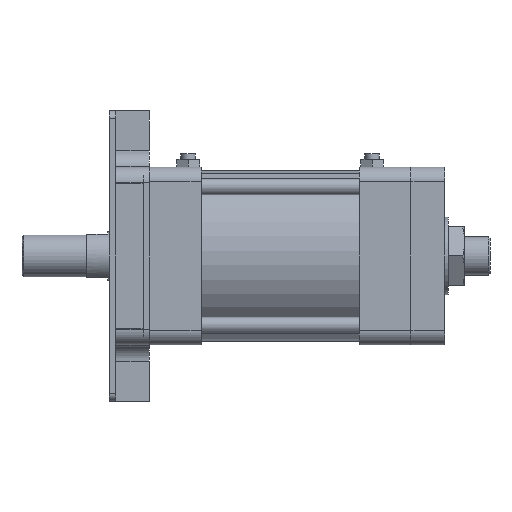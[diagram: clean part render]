
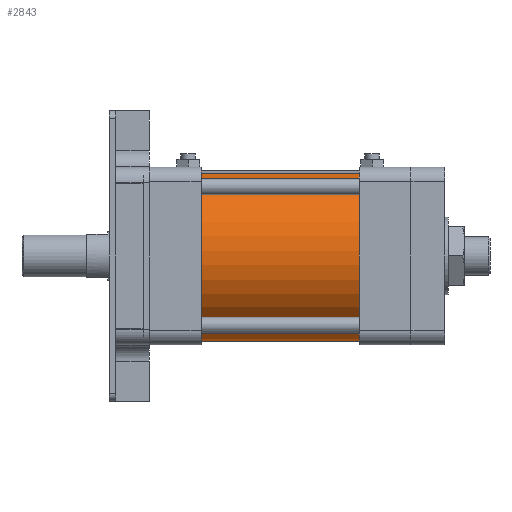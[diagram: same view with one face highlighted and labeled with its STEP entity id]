
A CAD part, front view. The second image highlights one B-rep face of the part: STEP entity #2843.
In plain terms, the highlighted cylindrical face has radius 53 mm (diameter 106 mm), a partial arc.
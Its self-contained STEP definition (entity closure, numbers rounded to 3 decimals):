
#381 = DIRECTION ( 'NONE',  ( 0., 0., -1. ) ) ;
#688 = CARTESIAN_POINT ( 'NONE',  ( -49., 0., 53. ) ) ;
#1196 = AXIS2_PLACEMENT_3D ( 'NONE', #10433, #7492, #2867 ) ;
#1697 = DIRECTION ( 'NONE',  ( 0., 0., -1. ) ) ;
#1712 = VERTEX_POINT ( 'NONE', #9223 ) ;
#2075 = DIRECTION ( 'NONE',  ( 1., 0., 0. ) ) ;
#2151 = CARTESIAN_POINT ( 'NONE',  ( 62.388, 0., 53. ) ) ;
#2378 = CARTESIAN_POINT ( 'NONE',  ( 62.388, 0., 0. ) ) ;
#2770 = AXIS2_PLACEMENT_3D ( 'NONE', #2378, #8308, #381 ) ;
#2843 = ADVANCED_FACE ( 'NONE', ( #3990 ), #7216, .T. ) ;
#2867 = DIRECTION ( 'NONE',  ( 0., 0., -1. ) ) ;
#3220 = CIRCLE ( 'NONE', #1196, 53. ) ;
#3297 = ORIENTED_EDGE ( 'NONE', *, *, #3688, .T. ) ;
#3617 = LINE ( 'NONE', #2151, #5600 ) ;
#3659 = CARTESIAN_POINT ( 'NONE',  ( 49., 0., 53. ) ) ;
#3688 = EDGE_CURVE ( 'NONE', #9796, #1712, #3220, .T. ) ;
#3990 = FACE_OUTER_BOUND ( 'NONE', #9768, .T. ) ;
#4071 = VERTEX_POINT ( 'NONE', #8816 ) ;
#4367 = VERTEX_POINT ( 'NONE', #3659 ) ;
#4536 = ORIENTED_EDGE ( 'NONE', *, *, #7487, .F. ) ;
#5600 = VECTOR ( 'NONE', #6663, 1000. ) ;
#5773 = DIRECTION ( 'NONE',  ( 1., 0., 0. ) ) ;
#5841 = EDGE_CURVE ( 'NONE', #1712, #4071, #9756, .T. ) ;
#6663 = DIRECTION ( 'NONE',  ( 1., 0., 0. ) ) ;
#6930 = AXIS2_PLACEMENT_3D ( 'NONE', #7619, #2075, #1697 ) ;
#7148 = EDGE_CURVE ( 'NONE', #9796, #4367, #3617, .T. ) ;
#7216 = CYLINDRICAL_SURFACE ( 'NONE', #2770, 53. ) ;
#7487 = EDGE_CURVE ( 'NONE', #4367, #4071, #10742, .T. ) ;
#7492 = DIRECTION ( 'NONE',  ( 1., 0., 0. ) ) ;
#7601 = ORIENTED_EDGE ( 'NONE', *, *, #5841, .T. ) ;
#7619 = CARTESIAN_POINT ( 'NONE',  ( 49., 0., 0. ) ) ;
#7769 = CARTESIAN_POINT ( 'NONE',  ( 62.388, 0., -53. ) ) ;
#8308 = DIRECTION ( 'NONE',  ( 1., 0., 0. ) ) ;
#8816 = CARTESIAN_POINT ( 'NONE',  ( 49., 0., -53. ) ) ;
#9223 = CARTESIAN_POINT ( 'NONE',  ( -49., 0., -53. ) ) ;
#9756 = LINE ( 'NONE', #7769, #10613 ) ;
#9768 = EDGE_LOOP ( 'NONE', ( #10034, #3297, #7601, #4536 ) ) ;
#9796 = VERTEX_POINT ( 'NONE', #688 ) ;
#10034 = ORIENTED_EDGE ( 'NONE', *, *, #7148, .F. ) ;
#10433 = CARTESIAN_POINT ( 'NONE',  ( -49., 0., 0. ) ) ;
#10613 = VECTOR ( 'NONE', #5773, 1000. ) ;
#10742 = CIRCLE ( 'NONE', #6930, 53. ) ;
